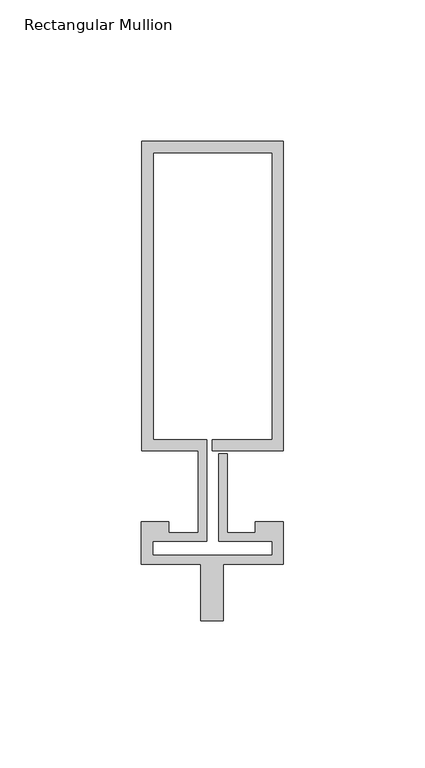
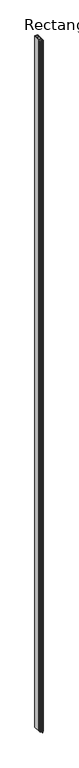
"""IFC4 building model written with IfcOpenShell, lengths in millimetres: member geometry, Rectangular Mullion : Reynaers_CW-50_Mullion-Transom_Horizontal_109.4mm_Facecap-06A."""

from ifc_helpers import new_model, si_unit, frame, origin, place, context, project, spatial, polyline, outline, extrude, source, transform, mapped, element, save


def rectangular_mullion_3ef4cb84(model_context):
    return source(origin(), model_context, "Body", "SweptSolid", [
        extrude(outline(polyline([(-24.8004059, 121.9), (25.1995941, 121.9), (25.1995941, 12.5), (0.0, 12.5), (0.0, 16.5), (21.1995941, 16.5), (21.1995941, 117.9), (-20.8004059, 117.9), (-20.8004059, 16.5), (-1.9004059, 16.5), (-1.9004059, -19.5), (-20.994845, -19.5), (-20.994845, -24.4191338), (21.1995941, -24.4191338), (21.1995941, -19.5), (2.2995941, -19.5), (2.2995941, 11.5), (5.2995941, 11.5), (5.2995941, -16.5), (15.2996495, -16.5), (15.2996495, -12.5), (25.1995941, -12.5), (25.1995941, -27.5), (4.004855, -27.5), (4.004855, -47.5), (-3.995145, -47.5), (-3.995145, -27.5), (-24.994845, -27.5), (-24.994845, -12.5), (-15.2996495, -12.5), (-15.2996495, -16.5), (-4.9004059, -16.5), (-4.9004059, 12.5), (-24.8004059, 12.5), (-24.8004059, 121.9)])), frame((0.0, 0.0, -12000.0), z_axis=(0.0, 0.0, 1.0), x_axis=(1.0, 0.0, 0.0)), (0.0, 0.0, 1.0), 12000.0),
    ])


if __name__ == "__main__":
    model = new_model("IFC4")
    model_context = context("Model", 3, world=origin())
    ifc_project = project(units=[si_unit("LENGTHUNIT", "METRE", prefix="MILLI")], contexts=[model_context])
    site = spatial("IfcSite", under=ifc_project)
    building = spatial("IfcBuilding", under=site)
    placement = place(None, origin())
    rectangular_mullion_shape = rectangular_mullion_3ef4cb84(model_context)
    element("IfcMember", 1, ObjectType="Rectangular Mullion : Reynaers_CW-50_Mullion-Transom_Horizontal_109.4mm_Facecap-06A", at=placement, inside=building, context=model_context, shape_type="MappedRepresentation", body=[
        mapped(rectangular_mullion_shape, transform((0.0, 0.0, 0.0), x_axis=(1.0, 0.0, 0.0), y_axis=(0.0, 1.0, 0.0), z_axis=(0.0, 0.0, 1.0))),
    ])
    save(model, "model.ifc")
